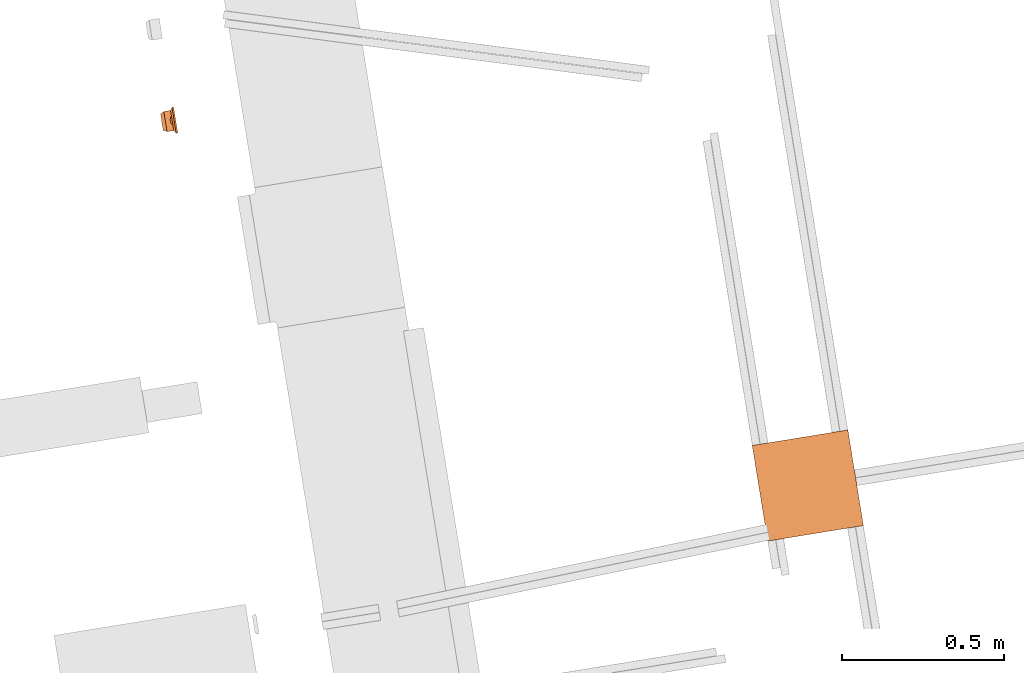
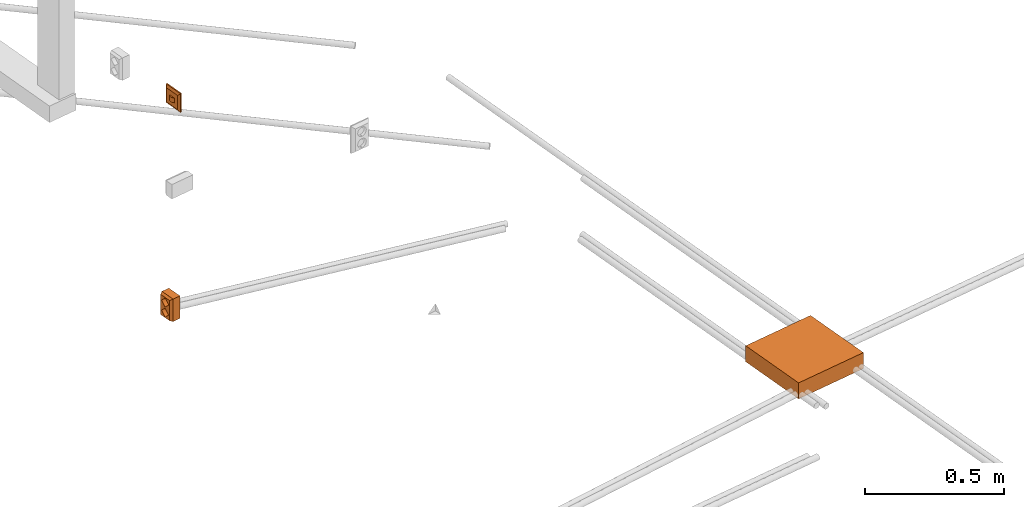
# One storey, part 11 of 33: 3 proxies.
"""IFC2X3 building model written with IfcOpenShell, lengths in millimetres."""

from ifc_helpers import new_model, entity, si_unit, converted_unit, derived_unit, direction, frame, frame_2d, origin, origin_with_axes, origin_2d_with_axis, place, context, subcontext, project, spatial, polyline, circle_curve, parameter, trimmed, segment, composite_curve, rectangle, circle, hollow_circle, outline, extrude, source, transform, mapped, material, type_object, element, save


model = new_model("IFC2X3")

# Units and contexts
plan_context = context("Plan", 3, precision=1e-05, world=origin_with_axes())
model_context = context("Model", 3, precision=0.01, world=origin(), true_north=direction((6.12323399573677e-17, 1.0)))
body_context = subcontext(model_context, "Body", "Model", "MODEL_VIEW")
ifc_project = project(units=[converted_unit("PLANEANGLEUNIT", "DEGREE", entity("IfcPositiveLengthMeasure", 0.0174532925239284), si_unit("PLANEANGLEUNIT", "RADIAN"), dimensions=[0, 0, 0, 0, 0, 0, 0]), si_unit("AREAUNIT", "SQUARE_METRE"), si_unit("LENGTHUNIT", "METRE", prefix="MILLI"), si_unit("MASSUNIT", "GRAM", prefix="KILO"), si_unit("POWERUNIT", "WATT"), si_unit("PRESSUREUNIT", "PASCAL", prefix="KILO"), si_unit("FORCEUNIT", "NEWTON", prefix="KILO"), si_unit("ELECTRICVOLTAGEUNIT", "VOLT"), si_unit("ELECTRICCURRENTUNIT", "AMPERE"), si_unit("THERMODYNAMICTEMPERATUREUNIT", "DEGREE_CELSIUS"), si_unit("TIMEUNIT", "SECOND"), si_unit("VOLUMEUNIT", "CUBIC_METRE"), derived_unit("LINEARVELOCITYUNIT", [(si_unit("LENGTHUNIT", "METRE"), 1), (si_unit("TIMEUNIT", "SECOND"), -1)]), derived_unit("VOLUMETRICFLOWRATEUNIT", [(si_unit("VOLUMEUNIT", "CUBIC_METRE"), 1), (si_unit("TIMEUNIT", "SECOND"), -1)]), derived_unit("THERMALTRANSMITTANCEUNIT", [(si_unit("POWERUNIT", "WATT"), 1), (si_unit("THERMODYNAMICTEMPERATUREUNIT", "KELVIN"), -1), (si_unit("AREAUNIT", "SQUARE_METRE"), -1)]), derived_unit("SOUNDPRESSUREUNIT", [(si_unit("PRESSUREUNIT", "PASCAL"), 1)])], contexts=[model_context, plan_context])

# Site, building, storey
site_placement = place(None, frame((-0.219946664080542, 0.12226179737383, 0.0), z_axis=(0.0, 0.0, 1.0), x_axis=(-0.160236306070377, 0.987078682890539, 0.0)))
site = spatial("IfcSite", under=ifc_project, at=site_placement, Name="Default", CompositionType="ELEMENT")
building_placement = place(site_placement, origin_with_axes())
building = spatial("IfcBuilding", under=site, at=building_placement, CompositionType="ELEMENT")
storey_placement = place(building_placement, frame((0.0, 0.0, 59000.0), z_axis=(0.0, 0.0, 1.0), x_axis=(1.0, 0.0, 0.0)))
storey = spatial("IfcBuildingStorey", under=building, at=storey_placement, Name="Nivå F", CompositionType="ELEMENT", Elevation=59000.0)

# Proxies
ifc_material = material(Name="<Unnamed>")
building_element_proxy_type_1 = type_object("IfcBuildingElementProxyType", Name="Dobbel stikk på vegg 2P+J vert PH:EARTHED-SOCKET-2(VER)", PredefinedType="NOTDEFINED", material=ifc_material)
shared_shape_1 = source(origin(), body_context, "Body", "SweptSolid", [
    extrude(outline(composite_curve([segment(polyline([(-6.66666666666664, -6.66666666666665), (13.3333333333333, -6.66666666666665)]), True, "CONTINUOUS"), segment(trimmed(circle_curve(frame_2d((13.3333333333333, 13.3333333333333), x_axis=(-1.0, 0.0)), 20.0), [parameter(360.0)], [parameter(90.0)], True, "PARAMETER"), False, "CONTINUOUS"), segment(polyline([(-6.66666666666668, 13.3333333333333), (-6.66666666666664, -6.66666666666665)]), True, "CONTINUOUS")], self_intersect=False)), frame((13.3333333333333, 42.8999999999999, 8.65666666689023), z_axis=(0.0, 1.0, 0.0), x_axis=(-1.0, 0.0, 0.0)), (0.0, 0.0, 1.0), 0.199999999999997),
    extrude(outline(composite_curve([segment(polyline([(-6.66666666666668, -6.66666666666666), (13.3333333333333, -6.66666666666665)]), True, "CONTINUOUS"), segment(trimmed(circle_curve(frame_2d((13.3333333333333, 13.3333333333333), x_axis=(0.0, -1.0)), 20.0), [parameter(270.0)], [parameter(0.0)], True, "PARAMETER"), False, "CONTINUOUS"), segment(polyline([(-6.66666666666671, 13.3333333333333), (-6.66666666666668, -6.66666666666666)]), True, "CONTINUOUS")], self_intersect=False)), frame((13.3333333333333, 42.8999999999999, 35.3333333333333), z_axis=(0.0, 1.0, 0.0), x_axis=(0.0, 0.0, -1.0)), (0.0, 0.0, 1.0), 0.199999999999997),
    extrude(outline(composite_curve([segment(polyline([(-6.66666666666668, -6.66666666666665), (13.3333333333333, -6.66666666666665)]), True, "CONTINUOUS"), segment(trimmed(circle_curve(frame_2d((13.3333333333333, 13.3333333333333), x_axis=(-1.0, 0.0)), 20.0), [parameter(0.0)], [parameter(90.0)], True, "PARAMETER"), False, "CONTINUOUS"), segment(polyline([(-6.66666666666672, 13.3333333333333), (-6.66666666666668, -6.66666666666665)]), True, "CONTINUOUS")], self_intersect=False)), frame((-13.3333333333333, 42.8999999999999, 35.3433333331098), z_axis=(0.0, 1.0, 0.0), x_axis=(1.0, 0.0, 0.0)), (0.0, 0.0, 1.0), 0.199999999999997),
    extrude(outline(composite_curve([segment(polyline([(-6.66666666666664, -6.66666666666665), (13.3333333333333, -6.66666666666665)]), True, "CONTINUOUS"), segment(trimmed(circle_curve(frame_2d((13.3333333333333, 13.3333333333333), x_axis=(0.0, -1.0)), 20.0), [parameter(270.0)], [parameter(0.0)], True, "PARAMETER"), False, "CONTINUOUS"), segment(polyline([(-6.66666666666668, 13.3333333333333), (-6.66666666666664, -6.66666666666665)]), True, "CONTINUOUS")], self_intersect=False)), frame((-13.3333333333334, 42.8999999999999, 8.66666666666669), z_axis=(0.0, 1.0, 0.0), x_axis=(0.0, 0.0, 1.0)), (0.0, 0.0, 1.0), 0.199999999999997),
    extrude(outline(composite_curve([segment(polyline([(-6.66666666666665, -6.66666666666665), (13.3333333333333, -6.66666666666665)]), True, "CONTINUOUS"), segment(trimmed(circle_curve(frame_2d((13.3333333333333, 13.3333333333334), x_axis=(-1.0, 0.0)), 20.0), [parameter(360.0)], [parameter(90.0)], True, "PARAMETER"), False, "CONTINUOUS"), segment(polyline([(-6.66666666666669, 13.3333333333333), (-6.66666666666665, -6.66666666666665)]), True, "CONTINUOUS")], self_intersect=False)), frame((13.3333333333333, 42.8999999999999, -35.3433333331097), z_axis=(0.0, 1.0, 0.0), x_axis=(-1.0, 0.0, 0.0)), (0.0, 0.0, 1.0), 0.199999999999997),
    extrude(outline(composite_curve([segment(polyline([(-6.66666666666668, -6.66666666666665), (13.3333333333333, -6.66666666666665)]), True, "CONTINUOUS"), segment(trimmed(circle_curve(frame_2d((13.3333333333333, 13.3333333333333), x_axis=(0.0, -1.0)), 20.0), [parameter(270.0)], [parameter(0.0)], True, "PARAMETER"), False, "CONTINUOUS"), segment(polyline([(-6.66666666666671, 13.3333333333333), (-6.66666666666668, -6.66666666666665)]), True, "CONTINUOUS")], self_intersect=False)), frame((13.3333333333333, 42.8999999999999, -8.66666666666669), z_axis=(0.0, 1.0, 0.0), x_axis=(0.0, 0.0, -1.0)), (0.0, 0.0, 1.0), 0.199999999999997),
    extrude(outline(composite_curve([segment(polyline([(-6.66666666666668, -6.66666666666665), (13.3333333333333, -6.66666666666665)]), True, "CONTINUOUS"), segment(trimmed(circle_curve(frame_2d((13.3333333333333, 13.3333333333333), x_axis=(-1.0, 0.0)), 20.0), [parameter(0.0)], [parameter(90.0)], True, "PARAMETER"), False, "CONTINUOUS"), segment(polyline([(-6.66666666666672, 13.3333333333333), (-6.66666666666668, -6.66666666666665)]), True, "CONTINUOUS")], self_intersect=False)), frame((-13.3333333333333, 42.8999999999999, -8.65666666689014), z_axis=(0.0, 1.0, 0.0), x_axis=(1.0, 0.0, 0.0)), (0.0, 0.0, 1.0), 0.199999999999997),
    extrude(outline(composite_curve([segment(polyline([(-6.66666666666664, -6.66666666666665), (13.3333333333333, -6.66666666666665)]), True, "CONTINUOUS"), segment(trimmed(circle_curve(frame_2d((13.3333333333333, 13.3333333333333), x_axis=(0.0, -1.0)), 20.0), [parameter(270.0)], [parameter(0.0)], True, "PARAMETER"), False, "CONTINUOUS"), segment(polyline([(-6.66666666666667, 13.3333333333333), (-6.66666666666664, -6.66666666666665)]), True, "CONTINUOUS")], self_intersect=False)), frame((-13.3333333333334, 42.8999999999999, -35.3333333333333), z_axis=(0.0, 1.0, 0.0), x_axis=(0.0, 0.0, 1.0)), (0.0, 0.0, 1.0), 0.199999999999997),
    extrude(rectangle(XDim=9.99999999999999, YDim=0.999999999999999, at=frame_2d((0.0, 1.11022302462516e-15), x_axis=(1.0, 0.0))), frame((0.0, 40.0, 4.4), z_axis=(0.0, 0.0, 1.0), x_axis=(0.0, -1.0, 0.0)), (0.0, 0.0, 1.0), 0.2),
    extrude(rectangle(XDim=21.5, YDim=0.999999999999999, at=frame_2d((0.0, 7.32747196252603e-15), x_axis=(1.0, 0.0))), frame((0.0, 32.25, 2.4), z_axis=(0.0, 0.0, 1.0), x_axis=(0.0, -1.0, 0.0)), (0.0, 0.0, 1.0), 0.2),
    extrude(rectangle(XDim=9.99999999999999, YDim=0.999999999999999, at=frame_2d((0.0, 1.11022302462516e-15), x_axis=(1.0, 0.0))), frame((0.0, 40.0, 39.4), z_axis=(0.0, 0.0, 1.0), x_axis=(0.0, -1.0, 0.0)), (0.0, 0.0, 1.0), 0.199999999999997),
    extrude(rectangle(XDim=21.5, YDim=0.999999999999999, at=frame_2d((0.0, 7.32747196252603e-15), x_axis=(1.0, 0.0))), frame((0.0, 32.25, 41.4), z_axis=(0.0, 0.0, 1.0), x_axis=(0.0, -1.0, 0.0)), (0.0, 0.0, 1.0), 0.199999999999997),
    extrude(rectangle(XDim=9.99999999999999, YDim=0.999999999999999, at=frame_2d((0.0, 1.11022302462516e-15), x_axis=(1.0, 0.0))), frame((0.0, 40.0, -39.6), z_axis=(0.0, 0.0, 1.0), x_axis=(0.0, -1.0, 0.0)), (0.0, 0.0, 1.0), 0.199999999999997),
    extrude(rectangle(XDim=21.5, YDim=0.999999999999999, at=frame_2d((0.0, 7.32747196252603e-15), x_axis=(1.0, 0.0))), frame((0.0, 32.25, -41.6), z_axis=(0.0, 0.0, 1.0), x_axis=(0.0, -1.0, 0.0)), (0.0, 0.0, 1.0), 0.199999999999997),
    extrude(rectangle(XDim=9.99999999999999, YDim=0.999999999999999, at=frame_2d((0.0, 1.11022302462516e-15), x_axis=(1.0, 0.0))), frame((0.0, 40.0, -4.59999999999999), z_axis=(0.0, 0.0, 1.0), x_axis=(0.0, -1.0, 0.0)), (0.0, 0.0, 1.0), 0.2),
    extrude(rectangle(XDim=21.5, YDim=0.999999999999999, at=frame_2d((0.0, 7.32747196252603e-15), x_axis=(1.0, 0.0))), frame((0.0, 32.25, -2.6), z_axis=(0.0, 0.0, 1.0), x_axis=(0.0, -1.0, 0.0)), (0.0, 0.0, 1.0), 0.2),
    extrude(rectangle(XDim=0.199999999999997, YDim=40.0, at=frame_2d((4.2257863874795e-15, 1.77635683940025e-15), x_axis=(1.0, 0.0))), frame((0.0, 43.0, 42.0), z_axis=(0.0, 0.0, 1.0), x_axis=(0.0, 1.0, 0.0)), (0.0, 0.0, 1.0), 1.99999999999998),
    extrude(rectangle(XDim=0.199999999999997, YDim=40.0, at=frame_2d((4.2257863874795e-15, 1.77635683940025e-15), x_axis=(1.0, 0.0))), frame((0.0, 43.0, 0.0), z_axis=(0.0, 0.0, 1.0), x_axis=(0.0, 1.0, 0.0)), (0.0, 0.0, 1.0), 1.99999999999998),
    extrude(rectangle(XDim=0.199999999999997, YDim=40.0, at=frame_2d((4.2257863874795e-15, 1.77635683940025e-15), x_axis=(1.0, 0.0))), frame((0.0, 43.0, -2.0), z_axis=(0.0, 0.0, 1.0), x_axis=(0.0, 1.0, 0.0)), (0.0, 0.0, 1.0), 1.99999999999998),
    extrude(rectangle(XDim=0.199999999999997, YDim=40.0, at=frame_2d((4.2257863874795e-15, 1.77635683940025e-15), x_axis=(1.0, 0.0))), frame((0.0, 43.0, -44.0), z_axis=(0.0, 0.0, 1.0), x_axis=(0.0, 1.0, 0.0)), (0.0, 0.0, 1.0), 1.99999999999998),
    extrude(rectangle(XDim=0.199999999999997, YDim=5.75, at=frame_2d((4.2257863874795e-15, 0.0), x_axis=(1.0, 0.0))), frame((-22.875, 43.0, -44.0), z_axis=(0.0, 0.0, 1.0), x_axis=(0.0, 1.0, 0.0)), (0.0, 0.0, 1.0), 87.9999999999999),
    extrude(outline(polyline([(-18.9908791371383, -25.8475629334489), (-5.60945544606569, -25.8475629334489), (16.5201031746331, 20.6554760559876), (8.0802314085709, 31.0396498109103), (-18.9908791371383, -25.8475629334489)])), frame((0.0, 37.5413802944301, -46.5910366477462), z_axis=(0.0, -0.413802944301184, 0.910366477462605), x_axis=(-0.42970016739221, 0.822035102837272, 0.373652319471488)), (0.0, 0.0, 1.0), 0.200000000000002),
    extrude(outline(polyline([(-25.75, -6.04152298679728), (25.75, -6.04152298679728), (31.5, 6.04152298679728), (-31.5, 6.04152298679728), (-25.75, -6.04152298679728)])), frame((0.0, 37.4586197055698, 46.4089633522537), z_axis=(0.0, 0.413802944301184, 0.910366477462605), x_axis=(-1.0, 0.0, 0.0)), (0.0, 0.0, 1.0), 0.200000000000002),
    extrude(rectangle(XDim=0.199999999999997, YDim=5.75, at=frame_2d((4.2257863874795e-15, 0.0), x_axis=(1.0, 0.0))), frame((22.875, 43.0, -44.0), z_axis=(0.0, 0.0, 1.0), x_axis=(0.0, 1.0, 0.0)), (0.0, 0.0, 1.0), 87.9999999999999),
    extrude(rectangle(XDim=32.0, YDim=62.9999999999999, at=frame_2d((1.77635683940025e-15, 0.0), x_axis=(1.0, 0.0))), frame((0.0, 16.0, 48.8999999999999), z_axis=(0.0, 0.0, 1.0), x_axis=(0.0, -1.0, 0.0)), (0.0, 0.0, 1.0), 0.199999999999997),
    extrude(outline(polyline([(-49.0, -6.2060957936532), (49.0, -6.2060957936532), (44.0, 6.20609579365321), (-44.0, 6.20609579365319), (-49.0, -6.2060957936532)])), frame((-28.7136225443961, 37.5463254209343, 0.0), z_axis=(0.886225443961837, -0.463254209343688, 0.0), x_axis=(0.0, 0.0, -1.0)), (0.0, 0.0, 1.0), 0.199999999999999),
    extrude(outline(polyline([(-49.0, -6.2060957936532), (49.0, -6.20609579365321), (44.0, 6.20609579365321), (-44.0, 6.20609579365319), (-49.0, -6.2060957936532)])), frame((28.5363774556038, 37.4536745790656, 0.0), z_axis=(0.886225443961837, 0.463254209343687, 0.0), x_axis=(0.0, 0.0, -1.0)), (0.0, 0.0, 1.0), 0.199999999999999),
    extrude(rectangle(XDim=32.0, YDim=62.9999999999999, at=frame_2d((1.77635683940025e-15, 0.0), x_axis=(1.0, 0.0))), frame((0.0, 16.0, -49.0999999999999), z_axis=(0.0, 0.0, 1.0), x_axis=(0.0, -1.0, 0.0)), (0.0, 0.0, 1.0), 0.199999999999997),
    extrude(rectangle(XDim=0.200000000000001, YDim=32.0, at=frame_2d((2.11636264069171e-15, 0.0), x_axis=(1.0, 0.0))), frame((31.5, 16.0, -49.0)), (0.0, 0.0, 1.0), 97.9999999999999),
    extrude(rectangle(XDim=0.200000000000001, YDim=32.0, at=frame_2d((2.11636264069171e-15, 0.0), x_axis=(1.0, 0.0))), frame((-31.5, 16.0, -49.0)), (0.0, 0.0, 1.0), 97.9999999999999),
    extrude(rectangle(XDim=0.2, YDim=62.9999999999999, at=origin_2d_with_axis()), frame((0.0, 0.0, -49.0), z_axis=(0.0, 0.0, 1.0), x_axis=(0.0, 1.0, 0.0)), (0.0, 0.0, 1.0), 97.9999999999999),
    extrude(circle(Radius=2.5, at=frame_2d((0.0, -4.22994972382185e-15), x_axis=(1.0, 0.0))), frame((10.0, 21.450000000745, 22.0), z_axis=(0.0, 1.0, 0.0), x_axis=(0.0, 0.0, 1.0)), (0.0, 0.0, 1.0), 0.200000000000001),
    extrude(circle(Radius=2.5, at=frame_2d((0.0, -4.22994972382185e-15), x_axis=(1.0, 0.0))), frame((-10.0, 21.450000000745, 22.0), z_axis=(0.0, 1.0, 0.0), x_axis=(0.0, 0.0, 1.0)), (0.0, 0.0, 1.0), 0.200000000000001),
    extrude(circle(Radius=2.5, at=frame_2d((0.0, -4.22994972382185e-15), x_axis=(1.0, 0.0))), frame((10.0, 21.450000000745, -22.0), z_axis=(0.0, 1.0, 0.0), x_axis=(0.0, 0.0, 1.0)), (0.0, 0.0, 1.0), 0.200000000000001),
    extrude(circle(Radius=2.5, at=frame_2d((0.0, -4.22994972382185e-15), x_axis=(1.0, 0.0))), frame((-10.0, 21.450000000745, -22.0), z_axis=(0.0, 1.0, 0.0), x_axis=(0.0, 0.0, 1.0)), (0.0, 0.0, 1.0), 0.200000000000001),
    extrude(circle(Radius=20.0, at=frame_2d((-4.22994972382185e-15, -3.23108914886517e-14), x_axis=(1.0, 0.0))), frame((0.0, 21.4, 22.0), z_axis=(0.0, 1.0, 0.0), x_axis=(0.0, 0.0, 1.0)), (0.0, 0.0, 1.0), 0.200000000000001),
    extrude(circle(Radius=20.0, at=frame_2d((4.22994972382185e-15, -3.23108914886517e-14), x_axis=(1.0, 0.0))), frame((0.0, 21.4, -22.0), z_axis=(0.0, 1.0, 0.0), x_axis=(0.0, 0.0, 1.0)), (0.0, 0.0, 1.0), 0.200000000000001),
    extrude(outline(composite_curve([segment(trimmed(circle_curve(frame_2d((-0.800000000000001, 0.799999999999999), x_axis=(1.0, 0.0)), 2.0), [parameter(270.0)], [parameter(0.0)], True, "PARAMETER"), True, "CONTINUOUS"), segment(polyline([(1.20000000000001, 0.799999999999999), (0.400000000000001, 0.799999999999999)]), True, "CONTINUOUS"), segment(trimmed(circle_curve(frame_2d((-0.800000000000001, 0.799999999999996), x_axis=(0.0, -1.0)), 1.2), [parameter(0.0)], [parameter(89.9999999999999)], True, "PARAMETER"), False, "CONTINUOUS"), segment(polyline([(-0.799999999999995, -0.400000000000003), (-0.799999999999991, -1.2)]), True, "CONTINUOUS")], self_intersect=False)), frame((-1.5, 43.7999999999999, 3.7), z_axis=(1.0, 0.0, 0.0), x_axis=(0.0, 1.0, 0.0)), (0.0, 0.0, 1.0), 2.0),
    extrude(outline(composite_curve([segment(polyline([(-1.2, -0.800000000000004), (-0.400000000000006, -0.800000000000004)]), True, "CONTINUOUS"), segment(trimmed(circle_curve(frame_2d((0.799999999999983, -0.799999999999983), x_axis=(-1.0, 0.0)), 1.19999999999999), [parameter(269.999999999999)], [parameter(0.0)], True, "PARAMETER"), False, "CONTINUOUS"), segment(polyline([(0.799999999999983, 0.400000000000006), (0.799999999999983, 1.2)]), True, "CONTINUOUS"), segment(trimmed(circle_curve(frame_2d((0.79999999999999, -0.79999999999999), x_axis=(0.0, 1.0)), 1.99999999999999), [parameter(0.0)], [parameter(90.0000000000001)], True, "PARAMETER"), True, "CONTINUOUS")], self_intersect=False)), frame((-0.5, 43.8, 40.2999999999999), z_axis=(1.0, 0.0, 0.0), x_axis=(0.0, 0.0, -1.0)), (0.0, 0.0, 1.0), 2.0),
    extrude(outline(composite_curve([segment(trimmed(circle_curve(frame_2d((-0.799999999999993, 0.800000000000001), x_axis=(1.0, 0.0)), 1.99999999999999), [parameter(270.0)], [parameter(0.0)], True, "PARAMETER"), True, "CONTINUOUS"), segment(polyline([(1.2, 0.800000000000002), (0.400000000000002, 0.799999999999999)]), True, "CONTINUOUS"), segment(trimmed(circle_curve(frame_2d((-0.799999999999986, 0.799999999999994), x_axis=(0.0, -1.0)), 1.19999999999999), [parameter(0.0)], [parameter(90.0000000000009)], True, "PARAMETER"), False, "CONTINUOUS"), segment(polyline([(-0.800000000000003, -0.399999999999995), (-0.799999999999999, -1.19999999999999)]), True, "CONTINUOUS")], self_intersect=False)), frame((-1.5, 43.8, -40.3), z_axis=(1.0, 0.0, 0.0), x_axis=(0.0, 1.0, 0.0)), (0.0, 0.0, 1.0), 2.0),
    extrude(outline(composite_curve([segment(polyline([(-1.2, -0.800000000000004), (-0.399999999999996, -0.800000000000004)]), True, "CONTINUOUS"), segment(trimmed(circle_curve(frame_2d((0.800000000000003, -0.800000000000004), x_axis=(-1.0, 0.0)), 1.2), [parameter(270.0)], [parameter(0.0)], True, "PARAMETER"), False, "CONTINUOUS"), segment(polyline([(0.799999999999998, 0.399999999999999), (0.799999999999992, 1.2)]), True, "CONTINUOUS"), segment(trimmed(circle_curve(frame_2d((0.800000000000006, -0.800000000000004), x_axis=(0.0, 1.0)), 2.0), [parameter(0.0)], [parameter(89.9999999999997)], True, "PARAMETER"), True, "CONTINUOUS")], self_intersect=False)), frame((-0.5, 43.8, -3.7), z_axis=(1.0, 0.0, 0.0), x_axis=(0.0, 0.0, -1.0)), (0.0, 0.0, 1.0), 2.0),
    extrude(hollow_circle(Radius=20.0, WallThickness=0.199999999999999, at=frame_2d((-4.22994972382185e-15, -3.23108914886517e-14), x_axis=(1.0, 0.0))), frame((0.0, 21.5, 22.0), z_axis=(0.0, 1.0, 0.0), x_axis=(0.0, 0.0, 1.0)), (0.0, 0.0, 1.0), 21.5),
    extrude(hollow_circle(Radius=20.0, WallThickness=0.199999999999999, at=frame_2d((4.22994972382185e-15, -3.23108914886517e-14), x_axis=(1.0, 0.0))), frame((0.0, 21.5, -22.0), z_axis=(0.0, 1.0, 0.0), x_axis=(0.0, 0.0, 1.0)), (0.0, 0.0, 1.0), 21.5),
])
proxy_1_placement = place(storey_placement, frame((770457.619644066, -503829.629552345, 199.996199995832), z_axis=(0.0, 0.0, 1.0), x_axis=(1.0, 0.0, 0.0)))
element("IfcBuildingElementProxy", 1, at=proxy_1_placement, inside=storey, type_object=building_element_proxy_type_1, material=ifc_material, Name="Dobbel stikk på vegg 2P+J vert PH:EARTHED-SOCKET-2(VER)", ObjectType="Dobbel stikk på vegg 2P+J vert PH:EARTHED-SOCKET-2(VER)", context=body_context, shape_type="MappedRepresentation", body=[
    mapped(shared_shape_1, transform((0.0, 0.0, 0.0), scale=1.0)),
])
building_element_proxy_type_2 = type_object("IfcBuildingElementProxyType", Name="Gulvboks 300x300:CONNECTION BOX-EF-POWER-BALANC", PredefinedType="NOTDEFINED", material=ifc_material)
shared_shape_2 = source(origin(), body_context, "Body", "SweptSolid", [
    extrude(rectangle(XDim=300.0, YDim=300.0, at=origin_2d_with_axis()), frame((0.0, 0.0, -70.0), z_axis=(0.0, 0.0, 1.0), x_axis=(-1.0, 0.0, 0.0)), (0.0, 0.0, 1.0), 70.0),
])
proxy_2_placement = place(storey_placement, frame((769027.619644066, -505579.077763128, 0.0), z_axis=(0.0, 0.0, 1.0), x_axis=(1.0, 0.0, 0.0)))
element("IfcBuildingElementProxy", 2, at=proxy_2_placement, inside=storey, type_object=building_element_proxy_type_2, material=ifc_material, Name="Gulvboks 300x300:CONNECTION BOX-EF-POWER-BALANC", ObjectType="Gulvboks 300x300:CONNECTION BOX-EF-POWER-BALANC", context=body_context, shape_type="MappedRepresentation", body=[
    mapped(shared_shape_2, transform((0.0, 0.0, 0.0), scale=1.0)),
])
building_element_proxy_type_3 = type_object("IfcBuildingElementProxyType", Name="Move-detector-2-0002:MOVE-DETECTOR-2", PredefinedType="NOTDEFINED", material=ifc_material)
shared_shape_3 = source(origin(), body_context, "Body", "SweptSolid", [
    extrude(outline(polyline([(-31.1151497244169, -27.3285099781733), (-15.7528582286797, -27.3285099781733), (24.6057041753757, 19.7372572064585), (22.2623037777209, 34.9197627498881), (-31.1151497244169, -27.3285099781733)])), frame((35.9485504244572, 7.91425070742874, 0.0), z_axis=(0.514495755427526, 0.857492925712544, 0.0), x_axis=(-0.650944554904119, 0.390566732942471, 0.650944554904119)), (0.0, 0.0, 1.0), 0.200000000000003),
    extrude(outline(polyline([(-41.0, -5.8309518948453), (41.0, -5.8309518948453), (31.0, 5.8309518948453), (-31.0, 5.8309518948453), (-41.0, -5.8309518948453)])), frame((-35.9485504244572, 7.91425070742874, 0.0), z_axis=(-0.514495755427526, 0.857492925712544, 0.0), x_axis=(0.0, 0.0, 1.0)), (0.0, 0.0, 1.0), 0.2),
    extrude(outline(polyline([(15.7528582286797, -27.3285099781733), (31.1151497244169, -27.3285099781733), (-22.2623037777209, 34.9197627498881), (-24.6057041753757, 19.7372572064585), (15.7528582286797, -27.3285099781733)])), frame((0.0, 7.91425070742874, -35.9485504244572), z_axis=(0.0, 0.857492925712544, -0.514495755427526), x_axis=(0.650944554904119, -0.390566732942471, -0.65094455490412)), (0.0, 0.0, 1.0), 0.200000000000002),
    extrude(outline(polyline([(-31.0, -5.8309518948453), (31.0, -5.83095189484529), (41.0, 5.83095189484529), (-41.0, 5.8309518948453), (-31.0, -5.8309518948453)])), frame((0.0, 7.91425070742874, 35.9485504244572), z_axis=(0.0, 0.857492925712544, 0.514495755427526), x_axis=(-1.0, 0.0, 0.0)), (0.0, 0.0, 1.0), 0.199999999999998),
    extrude(rectangle(XDim=0.200000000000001, YDim=61.9999999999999, at=origin_2d_with_axis()), frame((0.0, 11.0, -31.0), z_axis=(0.0, 0.0, 1.0), x_axis=(0.0, 1.0, 0.0)), (0.0, 0.0, 1.0), 61.9999999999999),
    extrude(outline(composite_curve([segment(trimmed(circle_curve(frame_2d((-9.79999999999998, 9.79999999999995), x_axis=(1.0, 0.0)), 20.0), [parameter(270.0)], [parameter(0.0)], True, "PARAMETER"), True, "CONTINUOUS"), segment(polyline([(10.2, 9.79999999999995), (9.39999999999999, 9.79999999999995)]), True, "CONTINUOUS"), segment(trimmed(circle_curve(frame_2d((-9.79999999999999, 9.79999999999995), x_axis=(0.0, -1.0)), 19.2), [parameter(0.0)], [parameter(90.0000000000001)], True, "PARAMETER"), False, "CONTINUOUS"), segment(polyline([(-9.79999999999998, -9.40000000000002), (-9.79999999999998, -10.2)]), True, "CONTINUOUS")], self_intersect=False)), frame((0.0, 10.8592929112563, -10.0), z_axis=(0.0, 0.0, 1.0), x_axis=(-0.707106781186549, 0.707106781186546, 0.0)), (0.0, 0.0, 1.0), 20.0),
    extrude(outline(composite_curve([segment(trimmed(circle_curve(frame_2d((-10.0, 10.0), x_axis=(1.0, 0.0)), 20.0), [parameter(270.0)], [parameter(0.0)], True, "PARAMETER"), True, "CONTINUOUS"), segment(polyline([(10.0, 10.0), (-10.0, -10.0)]), True, "CONTINUOUS")], self_intersect=False)), frame((0.0, 11.1421356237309, -10.1), z_axis=(0.0, 0.0, 1.0), x_axis=(-0.707106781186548, 0.707106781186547, 0.0)), (0.0, 0.0, 1.0), 0.199999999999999),
    extrude(outline(composite_curve([segment(trimmed(circle_curve(frame_2d((-10.0, 10.0), x_axis=(1.0, 0.0)), 20.0), [parameter(270.0)], [parameter(0.0)], True, "PARAMETER"), True, "CONTINUOUS"), segment(polyline([(10.0, 10.0), (-10.0, -10.0)]), True, "CONTINUOUS")], self_intersect=False)), frame((0.0, 11.1421356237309, 9.89999999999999), z_axis=(0.0, 0.0, 1.0), x_axis=(-0.707106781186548, 0.707106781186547, 0.0)), (0.0, 0.0, 1.0), 0.199999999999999),
    extrude(rectangle(XDim=81.9999999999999, YDim=4.99999999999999, at=origin_2d_with_axis()), frame((0.0, 2.5, -41.0)), (0.0, 0.0, 1.0), 81.9999999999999),
])
proxy_3_placement = place(storey_placement, frame((770457.619644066, -503829.729552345, 1100.0), z_axis=(0.0, 0.0, 1.0), x_axis=(1.0, 0.0, 0.0)))
element("IfcBuildingElementProxy", 3, at=proxy_3_placement, inside=storey, type_object=building_element_proxy_type_3, material=ifc_material, Name="Move-detector-2-0002:MOVE-DETECTOR-2", ObjectType="Move-detector-2-0002:MOVE-DETECTOR-2", context=body_context, shape_type="MappedRepresentation", body=[
    mapped(shared_shape_3, transform((0.0, 0.0, 0.0), scale=1.0)),
])

save(model, "model.ifc")
